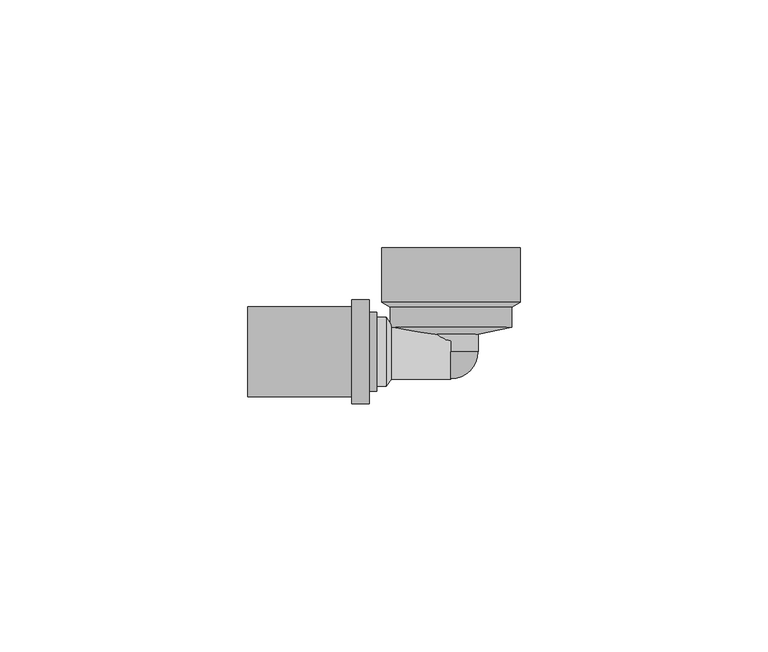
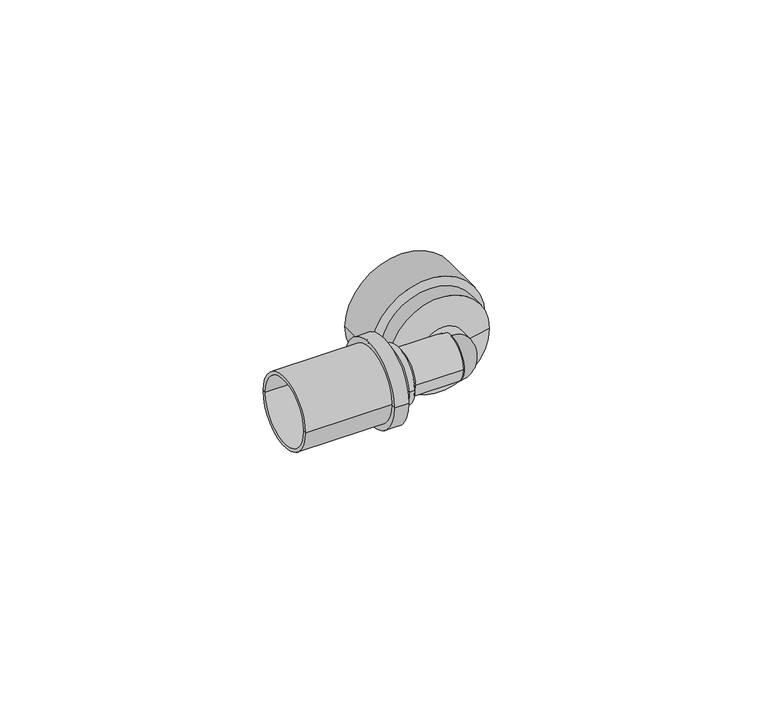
"""IFC4 building model written with IfcOpenShell, lengths in millimetres: pipe fitting geometry, Astra Gás - Cotovelo com Rosca Fêmea - GTC : Astra Gás - Cotovelo com Rosca Fêmea - GTC."""

from ifc_helpers import new_model, si_unit, point, frame, origin, place, context, project, spatial, polyline, circle_curve, ellipse_curve, trimmed, source, transform, mapped, element, save
from ifc_brep_helpers import plane_surface, cylinder_surface, revolved_surface, advanced_brep


def pipe_fitting_84de9a5f(model_context):
    return source(origin(), model_context, "Body", "AdvancedBrep", [
        advanced_brep(
        [(-41.0, -9.05, 0.0), (-41.0, 9.05, 0.0), (-17.5, 9.05, 0.0), (-17.5, -9.05, 0.0), (-41.0, -8.25, 0.0), (-41.0, 8.25, 0.0), (-17.5, -8.25, 0.0), (-17.5, 8.25, 0.0)],
        [
            (0, 1, circle_curve(frame((-41.0, 0.0, 0.0), z_axis=(1.0, 0.0, 0.0), x_axis=(0.0, 1.0, 0.0)), 9.05)),
            (1, 2),
            (2, 3, circle_curve(frame((-17.5, 0.0, 0.0), z_axis=(-1.0, 0.0, 0.0), x_axis=(0.0, 1.0, 0.0)), 9.05)),
            (3, 0),
            (1, 0, circle_curve(frame((-41.0, 0.0, 0.0), z_axis=(1.0, 0.0, 0.0), x_axis=(0.0, 1.0, 0.0)), 9.05)),
            (3, 2, circle_curve(frame((-17.5, 0.0, 0.0), z_axis=(-1.0, 0.0, 0.0), x_axis=(0.0, 1.0, 0.0)), 9.05)),
            (4, 5, circle_curve(frame((-41.0, 0.0, 0.0), z_axis=(1.0, 0.0, 0.0), x_axis=(0.0, 1.0, 0.0)), 8.25)),
            (5, 1),
            (0, 4),
            (5, 4, circle_curve(frame((-41.0, 0.0, 0.0), z_axis=(1.0, 0.0, 0.0), x_axis=(0.0, 1.0, 0.0)), 8.25)),
            (6, 7, circle_curve(frame((-17.5, 0.0, 0.0), z_axis=(1.0, 0.0, 0.0), x_axis=(0.0, 1.0, 0.0)), 8.25)),
            (7, 5),
            (4, 6),
            (7, 6, circle_curve(frame((-17.5, 0.0, 0.0), z_axis=(1.0, 0.0, 0.0), x_axis=(0.0, 1.0, 0.0)), 8.25)),
            (2, 7),
            (6, 3),
        ],
        [
            cylinder_surface(frame((-41.0, 0.0, 0.0), z_axis=(-1.0, 0.0, 0.0), x_axis=(0.0, 1.0, 0.0)), 9.05),
            plane_surface(frame((-41.0, 0.0, 0.0), z_axis=(-1.0, 0.0, 0.0), x_axis=(0.0, 1.0, 0.0))),
            revolved_surface(polyline([(-41.0, 8.25, 0.0), (-17.5, 8.25, 0.0)]), (-41.0, 0.0, 0.0), (-1.0, 0.0, 0.0)),
            plane_surface(frame((-17.5, 0.0, 0.0), z_axis=(1.0, 0.0, 0.0), x_axis=(0.0, 1.0, 0.0))),
        ],
        [
            (0, [[1, 2, 3, 4]]),
            (0, [[5, -4, 6, -2]]),
            (1, [[7, 8, -1, 9]]),
            (1, [[10, -9, -5, -8]]),
            (2, [[11, 12, -7, 13]]),
            (2, [[14, -13, -10, -12]]),
            (3, [[-3, 15, -11, 16]]),
            (3, [[-6, -16, -14, -15]]),
        ],
    ),
        advanced_brep(
        [(-17.5, -9.05, 0.0), (-17.5, 9.05, 0.0), (-20.0, 9.05, 0.0), (-20.0, -9.05, 0.0), (-17.5, 0.0, 0.0), (-15.0, -8.0, 0.0), (-15.0, 8.0, 0.0), (-15.0, 0.0, 0.0), (-16.5, -8.0, 0.0), (-16.5, 8.0, 0.0), (-16.5, -10.5, 0.0), (-16.5, 10.5, 0.0), (-20.0, -10.5, 0.0), (-20.0, 10.5, 0.0)],
        [
            (0, 1, circle_curve(frame((-17.5, 0.0, 0.0), z_axis=(1.0, 0.0, 0.0), x_axis=(0.0, 1.0, 0.0)), 9.05)),
            (1, 2),
            (2, 3, circle_curve(frame((-20.0, 0.0, 0.0), z_axis=(-1.0, 0.0, 0.0), x_axis=(0.0, 1.0, 0.0)), 9.05)),
            (3, 0),
            (1, 0, circle_curve(frame((-17.5, 0.0, 0.0), z_axis=(1.0, 0.0, 0.0), x_axis=(0.0, 1.0, 0.0)), 9.05)),
            (3, 2, circle_curve(frame((-20.0, 0.0, 0.0), z_axis=(-1.0, 0.0, 0.0), x_axis=(0.0, 1.0, 0.0)), 9.05)),
            (4, 1),
            (0, 4),
            (5, 6, circle_curve(frame((-15.0, 0.0, 0.0), z_axis=(1.0, 0.0, 0.0), x_axis=(0.0, 1.0, 0.0)), 8.0)),
            (6, 7),
            (7, 5),
            (6, 5, circle_curve(frame((-15.0, 0.0, 0.0), z_axis=(1.0, 0.0, 0.0), x_axis=(0.0, 1.0, 0.0)), 8.0)),
            (8, 9, circle_curve(frame((-16.5, 0.0, 0.0), z_axis=(1.0, 0.0, 0.0), x_axis=(0.0, 1.0, 0.0)), 8.0)),
            (9, 6),
            (5, 8),
            (9, 8, circle_curve(frame((-16.5, 0.0, 0.0), z_axis=(1.0, 0.0, 0.0), x_axis=(0.0, 1.0, 0.0)), 8.0)),
            (10, 11, circle_curve(frame((-16.5, 0.0, 0.0), z_axis=(1.0, 0.0, 0.0), x_axis=(0.0, 1.0, 0.0)), 10.5)),
            (11, 9),
            (8, 10),
            (11, 10, circle_curve(frame((-16.5, 0.0, 0.0), z_axis=(1.0, 0.0, 0.0), x_axis=(0.0, 1.0, 0.0)), 10.5)),
            (12, 13, circle_curve(frame((-20.0, 0.0, 0.0), z_axis=(1.0, 0.0, 0.0), x_axis=(0.0, 1.0, 0.0)), 10.5)),
            (13, 11),
            (10, 12),
            (13, 12, circle_curve(frame((-20.0, 0.0, 0.0), z_axis=(1.0, 0.0, 0.0), x_axis=(0.0, 1.0, 0.0)), 10.5)),
            (2, 13),
            (12, 3),
        ],
        [
            revolved_surface(polyline([(-20.0, 9.05, 0.0), (-17.5, 9.05, 0.0)]), (-20.0, 0.0, 0.0), (-1.0, 0.0, 0.0)),
            plane_surface(frame((-17.5, 0.0, 0.0), z_axis=(-1.0, 0.0, 0.0), x_axis=(0.0, 1.0, 0.0))),
            plane_surface(frame((-15.0, 0.0, 0.0), z_axis=(1.0, 0.0, 0.0), x_axis=(0.0, 1.0, 0.0))),
            cylinder_surface(frame((-20.0, 0.0, 0.0), z_axis=(-1.0, 0.0, 0.0), x_axis=(0.0, 1.0, 0.0)), 8.0),
            plane_surface(frame((-16.5, 0.0, 0.0), z_axis=(1.0, 0.0, 0.0), x_axis=(0.0, 1.0, 0.0))),
            cylinder_surface(frame((-20.0, 0.0, 0.0), z_axis=(-1.0, 0.0, 0.0), x_axis=(0.0, 1.0, 0.0)), 10.5),
            plane_surface(frame((-20.0, 0.0, 0.0), z_axis=(-1.0, 0.0, 0.0), x_axis=(0.0, 1.0, 0.0))),
        ],
        [
            (0, [[1, 2, 3, 4]]),
            (0, [[5, -4, 6, -2]]),
            (1, [[7, -1, 8]]),
            (1, [[-8, -5, -7]]),
            (2, [[9, 10, 11]]),
            (2, [[12, -11, -10]]),
            (3, [[13, 14, -9, 15]]),
            (3, [[16, -15, -12, -14]]),
            (4, [[17, 18, -13, 19]]),
            (4, [[20, -19, -16, -18]]),
            (5, [[21, 22, -17, 23]]),
            (5, [[24, -23, -20, -22]]),
            (6, [[-3, 25, -21, 26]]),
            (6, [[-6, -26, -24, -25]]),
        ],
    ),
        advanced_brep(
        [(0.0, 0.0, -5.5), (0.0, 0.0, 5.5)],
        [
            (0, 1, circle_curve(frame((0.0, 0.0, 0.0), z_axis=(-1.0, 0.0, 0.0), x_axis=(0.0, -1.0, 0.0)), 5.5)),
            (1, 0),
            (1, 0, circle_curve(frame((0.0, 0.0, 0.0), z_axis=(0.0, 1.0, 0.0), x_axis=(1.0, 0.0, 0.0)), 5.5)),
        ],
        [
            plane_surface(frame((0.0, 0.0, 5.5), z_axis=(-1.0, 0.0, 0.0), x_axis=(0.0, -1.0, 0.0))),
            plane_surface(frame((0.0, 0.0, 5.5), z_axis=(0.0, 1.0, 0.0), x_axis=(1.0, 0.0, 0.0))),
            revolved_surface(trimmed(ellipse_curve(frame((0.0, 0.0, 0.0), z_axis=(-1.0, 0.0, 0.0), x_axis=(0.0, -1.0, 0.0)), 5.5, 5.5), [point((0.0, 0.0, -5.5))], [point((0.0, 0.0, 5.5))], True, "CARTESIAN"), (0.0, 0.0, 5.5), (0.0, 0.0, 1.0)),
        ],
        [
            (0, [[1, 2]]),
            (1, [[3, -2]]),
            (2, [[-1, -3]]),
        ],
    ),
        advanced_brep(
        [(-13.0, 7.0, 0.0), (-13.0, -7.0, 0.0), (-15.0, -7.0, 0.0), (-15.0, 7.0, 0.0), (-12.0, 5.5, 0.0), (-12.0, -5.5, 0.0), (0.0, 5.5, 0.0), (0.0, -5.5, 0.0), (0.0, 0.0, 0.0), (-15.0, 0.0, 0.0)],
        [
            (0, 1, circle_curve(frame((-13.0, 0.0, 0.0), z_axis=(-1.0, 0.0, 0.0), x_axis=(0.0, -1.0, 0.0)), 7.0)),
            (1, 2),
            (2, 3, circle_curve(frame((-15.0, 0.0, 0.0), z_axis=(1.0, 0.0, 0.0), x_axis=(0.0, -1.0, 0.0)), 7.0)),
            (3, 0),
            (1, 0, circle_curve(frame((-13.0, 0.0, 0.0), z_axis=(-1.0, 0.0, 0.0), x_axis=(0.0, -1.0, 0.0)), 7.0)),
            (3, 2, circle_curve(frame((-15.0, 0.0, 0.0), z_axis=(1.0, 0.0, 0.0), x_axis=(0.0, -1.0, 0.0)), 7.0)),
            (4, 5, circle_curve(frame((-12.0, 0.0, 0.0), z_axis=(-1.0, 0.0, 0.0), x_axis=(0.0, -1.0, 0.0)), 5.5)),
            (5, 1),
            (0, 4),
            (5, 4, circle_curve(frame((-12.0, 0.0, 0.0), z_axis=(-1.0, 0.0, 0.0), x_axis=(0.0, -1.0, 0.0)), 5.5)),
            (6, 7, circle_curve(frame((0.0, 0.0, 0.0), z_axis=(-1.0, 0.0, 0.0), x_axis=(0.0, -1.0, 0.0)), 5.5)),
            (7, 5),
            (4, 6),
            (7, 6, circle_curve(frame((0.0, 0.0, 0.0), z_axis=(-1.0, 0.0, 0.0), x_axis=(0.0, -1.0, 0.0)), 5.5)),
            (8, 7),
            (6, 8),
            (2, 9),
            (9, 3),
        ],
        [
            cylinder_surface(frame((-15.0, 0.0, 0.0), z_axis=(1.0, 0.0, 0.0), x_axis=(0.0, -1.0, 0.0)), 7.0),
            revolved_surface(polyline([(-13.0, -7.0, 0.0), (-12.0, -5.5, 0.0)]), (-15.0, 0.0, 0.0), (1.0, 0.0, 0.0)),
            cylinder_surface(frame((-15.0, 0.0, 0.0), z_axis=(1.0, 0.0, 0.0), x_axis=(0.0, -1.0, 0.0)), 5.5),
            plane_surface(frame((0.0, 0.0, 0.0), z_axis=(1.0, 0.0, 0.0), x_axis=(0.0, -1.0, 0.0))),
            plane_surface(frame((-15.0, 0.0, 0.0), z_axis=(-1.0, 0.0, 0.0), x_axis=(0.0, -1.0, 0.0))),
        ],
        [
            (0, [[1, 2, 3, 4]]),
            (0, [[5, -4, 6, -2]]),
            (1, [[7, 8, -1, 9]]),
            (1, [[10, -9, -5, -8]]),
            (2, [[11, 12, -7, 13]]),
            (2, [[14, -13, -10, -12]]),
            (3, [[15, -11, 16]]),
            (3, [[-16, -14, -15]]),
            (4, [[-3, 17, 18]]),
            (4, [[-6, -18, -17]]),
        ],
    ),
        advanced_brep(
        [(-9.315, 21.0, 0.0), (9.315, 21.0, 0.0), (14.0, 21.0, 0.0), (-14.0, 21.0, 0.0), (-9.315, 7.716, 0.0), (9.315, 7.716, 0.0), (0.0, 7.716, 0.0), (-5.5, 0.0, 0.0), (5.5, 0.0, 0.0), (0.0, 0.0, 0.0), (-5.5, 3.5, 0.0), (5.5, 3.5, 0.0), (-12.25, 5.0, 0.0), (12.25, 5.0, 0.0), (-12.25, 8.99, 0.0), (12.25, 8.99, 0.0), (-14.0, 10.000363, 0.0), (14.0, 10.000363, 0.0)],
        [
            (0, 1, circle_curve(frame((0.0, 21.0, 0.0), z_axis=(0.0, -1.0, 0.0), x_axis=(1.0, 0.0, 0.0)), 9.315)),
            (1, 2),
            (2, 3, circle_curve(frame((0.0, 21.0, 0.0), z_axis=(0.0, 1.0, 0.0), x_axis=(1.0, 0.0, 0.0)), 14.0)),
            (3, 0),
            (1, 0, circle_curve(frame((0.0, 21.0, 0.0), z_axis=(0.0, -1.0, 0.0), x_axis=(1.0, 0.0, 0.0)), 9.315)),
            (3, 2, circle_curve(frame((0.0, 21.0, 0.0), z_axis=(0.0, 1.0, 0.0), x_axis=(1.0, 0.0, 0.0)), 14.0)),
            (4, 5, circle_curve(frame((0.0, 7.716, 0.0), z_axis=(0.0, -1.0, 0.0), x_axis=(1.0, 0.0, 0.0)), 9.315)),
            (5, 1),
            (0, 4),
            (5, 4, circle_curve(frame((0.0, 7.716, 0.0), z_axis=(0.0, -1.0, 0.0), x_axis=(1.0, 0.0, 0.0)), 9.315)),
            (6, 5),
            (4, 6),
            (7, 8, circle_curve(frame((0.0, 0.0, 0.0), z_axis=(0.0, -1.0, 0.0), x_axis=(1.0, 0.0, 0.0)), 5.5)),
            (8, 9),
            (9, 7),
            (8, 7, circle_curve(frame((0.0, 0.0, 0.0), z_axis=(0.0, -1.0, 0.0), x_axis=(1.0, 0.0, 0.0)), 5.5)),
            (10, 11, circle_curve(frame((0.0, 3.5, 0.0), z_axis=(0.0, -1.0, 0.0), x_axis=(1.0, 0.0, 0.0)), 5.5)),
            (11, 8),
            (7, 10),
            (11, 10, circle_curve(frame((0.0, 3.5, 0.0), z_axis=(0.0, -1.0, 0.0), x_axis=(1.0, 0.0, 0.0)), 5.5)),
            (12, 13, circle_curve(frame((0.0, 5.0, 0.0), z_axis=(0.0, -1.0, 0.0), x_axis=(1.0, 0.0, 0.0)), 12.25)),
            (13, 11),
            (10, 12),
            (13, 12, circle_curve(frame((0.0, 5.0, 0.0), z_axis=(0.0, -1.0, 0.0), x_axis=(1.0, 0.0, 0.0)), 12.25)),
            (14, 15, circle_curve(frame((0.0, 8.99, 0.0), z_axis=(0.0, -1.0, 0.0), x_axis=(1.0, 0.0, 0.0)), 12.25)),
            (15, 13),
            (12, 14),
            (15, 14, circle_curve(frame((0.0, 8.99, 0.0), z_axis=(0.0, -1.0, 0.0), x_axis=(1.0, 0.0, 0.0)), 12.25)),
            (16, 17, circle_curve(frame((0.0, 10.000363, 0.0), z_axis=(0.0, -1.0, 0.0), x_axis=(1.0, 0.0, 0.0)), 14.0)),
            (17, 15),
            (14, 16),
            (17, 16, circle_curve(frame((0.0, 10.000363, 0.0), z_axis=(0.0, -1.0, 0.0), x_axis=(1.0, 0.0, 0.0)), 14.0)),
            (2, 17),
            (16, 3),
        ],
        [
            plane_surface(frame((0.0, 21.0, 0.0), z_axis=(0.0, 1.0, 0.0), x_axis=(1.0, 0.0, 0.0))),
            revolved_surface(polyline([(9.315, 21.0, 0.0), (9.315, 7.716, 0.0)]), (0.0, 0.0, 0.0), (0.0, 1.0, 0.0)),
            plane_surface(frame((0.0, 7.716, 0.0), z_axis=(0.0, 1.0, 0.0), x_axis=(1.0, 0.0, 0.0))),
            plane_surface(frame((0.0, 0.0, 0.0), z_axis=(0.0, -1.0, 0.0), x_axis=(1.0, 0.0, 0.0))),
            cylinder_surface(frame((0.0, 0.0, 0.0), z_axis=(0.0, 1.0, 0.0), x_axis=(1.0, 0.0, 0.0)), 5.5),
            revolved_surface(polyline([(5.5, 3.5, 0.0), (12.25, 5.0, 0.0)]), (0.0, 0.0, 0.0), (0.0, 1.0, 0.0)),
            cylinder_surface(frame((0.0, 0.0, 0.0), z_axis=(0.0, 1.0, 0.0), x_axis=(1.0, 0.0, 0.0)), 12.25),
            revolved_surface(polyline([(12.25, 8.99, 0.0), (14.0, 10.000363, 0.0)]), (0.0, 0.0, 0.0), (0.0, 1.0, 0.0)),
            cylinder_surface(frame((0.0, 0.0, 0.0), z_axis=(0.0, 1.0, 0.0), x_axis=(1.0, 0.0, 0.0)), 14.0),
        ],
        [
            (0, [[1, 2, 3, 4]]),
            (0, [[5, -4, 6, -2]]),
            (1, [[7, 8, -1, 9]]),
            (1, [[10, -9, -5, -8]]),
            (2, [[11, -7, 12]]),
            (2, [[-12, -10, -11]]),
            (3, [[13, 14, 15]]),
            (3, [[16, -15, -14]]),
            (4, [[17, 18, -13, 19]]),
            (4, [[20, -19, -16, -18]]),
            (5, [[21, 22, -17, 23]]),
            (5, [[24, -23, -20, -22]]),
            (6, [[25, 26, -21, 27]]),
            (6, [[28, -27, -24, -26]]),
            (7, [[29, 30, -25, 31]]),
            (7, [[32, -31, -28, -30]]),
            (8, [[-3, 33, -29, 34]]),
            (8, [[-6, -34, -32, -33]]),
        ],
    ),
    ])


if __name__ == "__main__":
    model = new_model("IFC4")
    model_context = context("Model", 3, world=origin())
    ifc_project = project(units=[si_unit("LENGTHUNIT", "METRE", prefix="MILLI")], contexts=[model_context])
    site = spatial("IfcSite", under=ifc_project)
    building = spatial("IfcBuilding", under=site)
    placement = place(None, origin())
    pipe_fitting_shape = pipe_fitting_84de9a5f(model_context)
    element("IfcPipeFitting", 1, ObjectType="Astra Gás - Cotovelo com Rosca Fêmea - GTC : Astra Gás - Cotovelo com Rosca Fêmea - GTC", at=placement, inside=building, context=model_context, shape_type="MappedRepresentation", body=[
        mapped(pipe_fitting_shape, transform((0.0, 0.0, 0.0), x_axis=(1.0, 0.0, 0.0), y_axis=(0.0, 1.0, 0.0), z_axis=(0.0, 0.0, 1.0))),
    ])
    save(model, "model.ifc")
